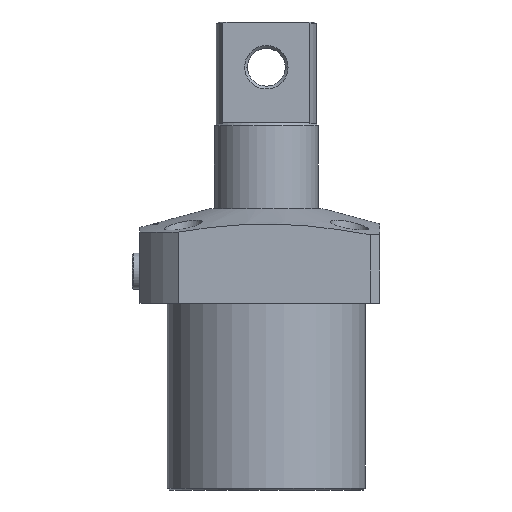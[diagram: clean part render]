
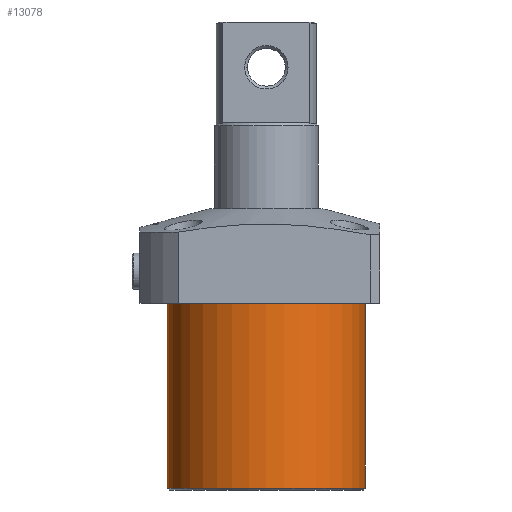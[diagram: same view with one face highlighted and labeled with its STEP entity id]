
A CAD part, front view. The second image highlights one B-rep face of the part: STEP entity #13078.
In plain terms, the highlighted cylindrical face has radius 52.5 mm (diameter 105 mm), a partial arc.
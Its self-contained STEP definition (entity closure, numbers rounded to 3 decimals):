
#796 = DIRECTION ( 'NONE',  ( 0., 0., 1. ) ) ;
#924 = DIRECTION ( 'NONE',  ( -1., 0., 0. ) ) ;
#1196 = CARTESIAN_POINT ( 'NONE',  ( 52.5, 0., 0. ) ) ;
#1293 = CARTESIAN_POINT ( 'NONE',  ( 0., 0., -98. ) ) ;
#1535 = CARTESIAN_POINT ( 'NONE',  ( 52.5, 0., -98. ) ) ;
#2520 = DIRECTION ( 'NONE',  ( -1., 0., 0. ) ) ;
#2590 = ORIENTED_EDGE ( 'NONE', *, *, #13764, .F. ) ;
#2798 = EDGE_CURVE ( 'NONE', #10380, #15711, #8222, .T. ) ;
#3672 = DIRECTION ( 'NONE',  ( 0., 0., 1. ) ) ;
#3965 = CIRCLE ( 'NONE', #7429, 52.5 ) ;
#4578 = VECTOR ( 'NONE', #3672, 1000. ) ;
#4634 = EDGE_CURVE ( 'NONE', #5144, #5894, #3965, .T. ) ;
#5144 = VERTEX_POINT ( 'NONE', #12375 ) ;
#5894 = VERTEX_POINT ( 'NONE', #1535 ) ;
#5917 = FACE_OUTER_BOUND ( 'NONE', #9517, .T. ) ;
#5966 = CARTESIAN_POINT ( 'NONE',  ( -52.5, 0., 0. ) ) ;
#6852 = CARTESIAN_POINT ( 'NONE',  ( 52.5, 0., -99. ) ) ;
#7429 = AXIS2_PLACEMENT_3D ( 'NONE', #1293, #9799, #2520 ) ;
#8021 = VECTOR ( 'NONE', #796, 1000. ) ;
#8222 = CIRCLE ( 'NONE', #15315, 52.5 ) ;
#8232 = DIRECTION ( 'NONE',  ( 0., 0., -1. ) ) ;
#9430 = DIRECTION ( 'NONE',  ( 0., 0., 1. ) ) ;
#9517 = EDGE_LOOP ( 'NONE', ( #2590, #12907, #14968, #9966 ) ) ;
#9799 = DIRECTION ( 'NONE',  ( 0., 0., 1. ) ) ;
#9966 = ORIENTED_EDGE ( 'NONE', *, *, #2798, .T. ) ;
#10125 = CARTESIAN_POINT ( 'NONE',  ( -52.5, 0., -99. ) ) ;
#10380 = VERTEX_POINT ( 'NONE', #1196 ) ;
#11052 = LINE ( 'NONE', #10125, #4578 ) ;
#11239 = LINE ( 'NONE', #6852, #8021 ) ;
#11252 = CYLINDRICAL_SURFACE ( 'NONE', #11741, 52.5 ) ;
#11741 = AXIS2_PLACEMENT_3D ( 'NONE', #14431, #9430, #13150 ) ;
#12375 = CARTESIAN_POINT ( 'NONE',  ( -52.5, 0., -98. ) ) ;
#12907 = ORIENTED_EDGE ( 'NONE', *, *, #4634, .T. ) ;
#13078 = ADVANCED_FACE ( 'NONE', ( #5917 ), #11252, .T. ) ;
#13150 = DIRECTION ( 'NONE',  ( 1., 0., 0. ) ) ;
#13764 = EDGE_CURVE ( 'NONE', #5144, #15711, #11052, .T. ) ;
#14206 = EDGE_CURVE ( 'NONE', #5894, #10380, #11239, .T. ) ;
#14431 = CARTESIAN_POINT ( 'NONE',  ( 0., 0., -99. ) ) ;
#14968 = ORIENTED_EDGE ( 'NONE', *, *, #14206, .T. ) ;
#15315 = AXIS2_PLACEMENT_3D ( 'NONE', #15652, #8232, #924 ) ;
#15652 = CARTESIAN_POINT ( 'NONE',  ( 0., 0., 0. ) ) ;
#15711 = VERTEX_POINT ( 'NONE', #5966 ) ;
